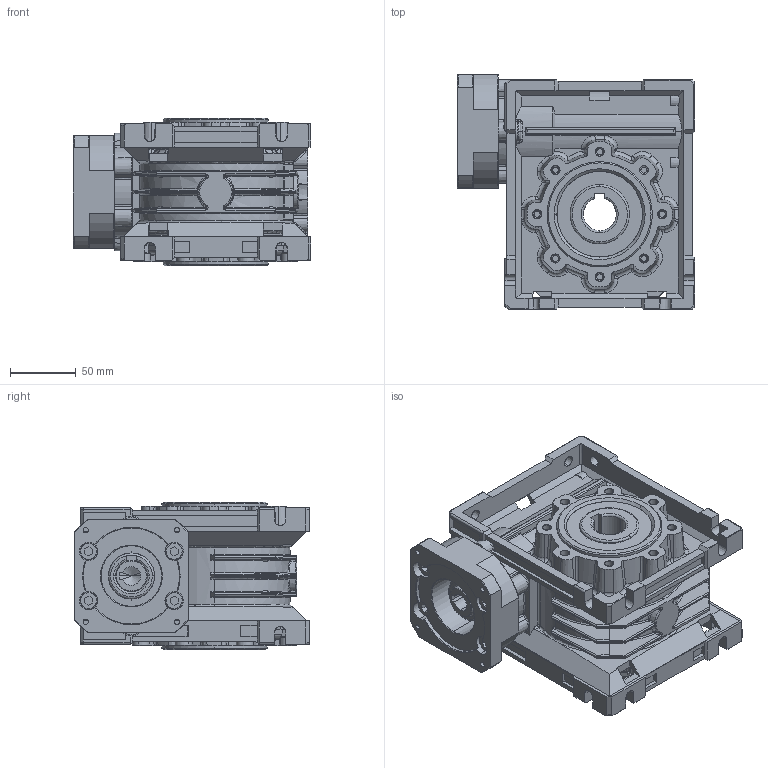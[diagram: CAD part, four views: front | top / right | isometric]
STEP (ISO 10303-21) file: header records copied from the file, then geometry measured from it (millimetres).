
FILE_DESCRIPTION (( 'STEP AP214' ), '1' );
FILE_NAME ('AF.00024553.STEP', '2022-11-18T10:05:32', ( '' ), ( '' ), 'SwSTEP 2.0', 'SolidWorks 2020', '' );
FILE_SCHEMA (( 'AUTOMOTIVE_DESIGN' ));
Length unit declared in the file: millimetre
Products named in the file (24): 110OLIOVSF320; W063014; 063mozzolavorato; W0631503024; 6OSTC35627NH; W06302; 6BR6205E; 4SLKI14O24S; 6S506201; 6SCHHM825ZC; 150NP27.37.20; 6OSTC45658NH; 063riportolavorato; 6CII62; 6KYA8730; AF.00017009; TCM063030U_Base; 6BR6009; W0632003025; 6OR2400N; 6BR6007E; 4SLI14O24.23; AF.00024553; 6SCTXM816ZC_Semplice
Assembly tree (34 placements, depth 4):
  110OLIOVSF320
  AF.00024553
    AF.00017009
    TCM063030U_Base
      W063014
      W0632003025
        063mozzolavorato
        063riportolavorato
      6BR6009  x2
      W06302
      6SCTXM816ZC_Semplice  x8
      6OR2400N
      6OSTC45658NH  x2
      W0631503024
      6BR6205E
      6BR6007E
      6CII62
      6OSTC35627NH
      150NP27.37.20
      6S506201
    6SCHHM825ZC  x4
    4SLKI14O24S
      4SLI14O24.23
      6KYA8730
Bounding box: 180 x 178 x 112 mm (x, y, z)
Volume: 1343170.6 mm3; surface area: 503932.4 mm2
Topology: 31 solids, 44 shells, 3054 faces, 7570 edges, 4649 vertices
Faces by surface type: plane 867, cylinder 722, cone 579, bspline 428, torus 415, sphere 43
Entity records: 102878 total; most frequent: CARTESIAN_POINT 36830, ORIENTED_EDGE 13864, DIRECTION 12156, EDGE_CURVE 6932, AXIS2_PLACEMENT_3D 4881, VERTEX_POINT 4309, EDGE_LOOP 2935, ADVANCED_FACE 2760
